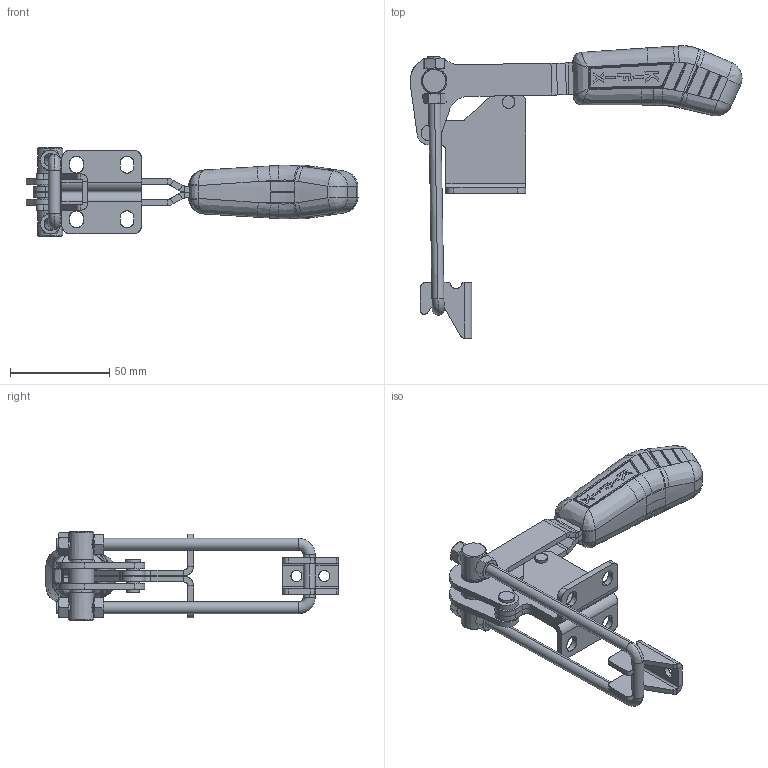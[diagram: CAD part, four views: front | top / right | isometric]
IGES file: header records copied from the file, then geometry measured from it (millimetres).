
Start section: SolidWorks IGES file using analytic representation for surfaces
Global section: file name: C:\Projetos\Grampos\KF-163\KF-163 D\KF-163 D.IGS; native system: SolidWorks 2013; preprocessor: SolidWorks 2013; author: Ricardo; date: 140822.090611; units: millimetre
Bounding box: 166.87 x 147.01 x 45 mm (x, y, z)
Surface area: 47475 mm2 (no closed solid volume)
Topology: 0 solids, 0 shells, 679 faces, 7419 edges, 7410 vertices
Faces by surface type: bspline 406, revolution 273
